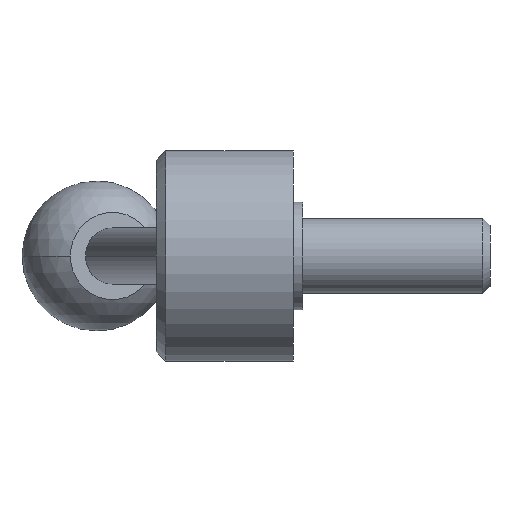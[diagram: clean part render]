
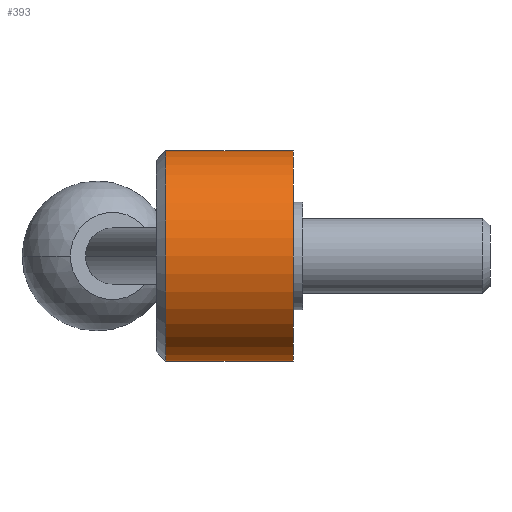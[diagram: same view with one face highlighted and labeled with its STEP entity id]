
A CAD part, left-side view. The second image highlights one B-rep face of the part: STEP entity #393.
In plain terms, the highlighted cylindrical face has radius 22.5 mm (diameter 45 mm), a partial arc.
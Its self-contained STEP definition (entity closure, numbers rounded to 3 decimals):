
#4 = ORIENTED_EDGE ( 'NONE', *, *, #778, .T. ) ;
#15 = FACE_OUTER_BOUND ( 'NONE', #525, .T. ) ;
#31 = ORIENTED_EDGE ( 'NONE', *, *, #611, .F. ) ;
#58 = DIRECTION ( 'NONE',  ( 0., -1., 0. ) ) ;
#76 = CARTESIAN_POINT ( 'NONE',  ( 0., 0., 0. ) ) ;
#79 = CARTESIAN_POINT ( 'NONE',  ( 0., 0., -22.5 ) ) ;
#82 = DIRECTION ( 'NONE',  ( 0., 0., -1. ) ) ;
#94 = AXIS2_PLACEMENT_3D ( 'NONE', #76, #187, #601 ) ;
#114 = VERTEX_POINT ( 'NONE', #79 ) ;
#122 = EDGE_CURVE ( 'NONE', #655, #114, #636, .T. ) ;
#187 = DIRECTION ( 'NONE',  ( 0., -1., 0. ) ) ;
#209 = ORIENTED_EDGE ( 'NONE', *, *, #122, .T. ) ;
#239 = EDGE_CURVE ( 'NONE', #540, #253, #400, .T. ) ;
#253 = VERTEX_POINT ( 'NONE', #609 ) ;
#272 = CARTESIAN_POINT ( 'NONE',  ( 0., 0., 22.5 ) ) ;
#281 = CYLINDRICAL_SURFACE ( 'NONE', #306, 22.5 ) ;
#284 = CARTESIAN_POINT ( 'NONE',  ( 0., 0., 0. ) ) ;
#306 = AXIS2_PLACEMENT_3D ( 'NONE', #284, #830, #82 ) ;
#314 = DIRECTION ( 'NONE',  ( 0., 0., 1. ) ) ;
#363 = CARTESIAN_POINT ( 'NONE',  ( 0., 27.3, -22.5 ) ) ;
#393 = ADVANCED_FACE ( 'NONE', ( #15 ), #281, .T. ) ;
#400 = LINE ( 'NONE', #272, #419 ) ;
#419 = VECTOR ( 'NONE', #58, 1000. ) ;
#422 = AXIS2_PLACEMENT_3D ( 'NONE', #798, #727, #314 ) ;
#435 = VECTOR ( 'NONE', #777, 1000. ) ;
#525 = EDGE_LOOP ( 'NONE', ( #665, #4, #209, #31 ) ) ;
#540 = VERTEX_POINT ( 'NONE', #626 ) ;
#573 = CARTESIAN_POINT ( 'NONE',  ( 0., 0., -22.5 ) ) ;
#601 = DIRECTION ( 'NONE',  ( 0., 0., -1. ) ) ;
#609 = CARTESIAN_POINT ( 'NONE',  ( 0., 0., 22.5 ) ) ;
#611 = EDGE_CURVE ( 'NONE', #253, #114, #752, .T. ) ;
#623 = CIRCLE ( 'NONE', #422, 22.5 ) ;
#626 = CARTESIAN_POINT ( 'NONE',  ( 0., 27.3, 22.5 ) ) ;
#636 = LINE ( 'NONE', #573, #435 ) ;
#655 = VERTEX_POINT ( 'NONE', #363 ) ;
#665 = ORIENTED_EDGE ( 'NONE', *, *, #239, .F. ) ;
#727 = DIRECTION ( 'NONE',  ( 0., -1., 0. ) ) ;
#752 = CIRCLE ( 'NONE', #94, 22.5 ) ;
#777 = DIRECTION ( 'NONE',  ( 0., -1., 0. ) ) ;
#778 = EDGE_CURVE ( 'NONE', #540, #655, #623, .T. ) ;
#798 = CARTESIAN_POINT ( 'NONE',  ( 0., 27.3, 0. ) ) ;
#830 = DIRECTION ( 'NONE',  ( 0., -1., 0. ) ) ;
